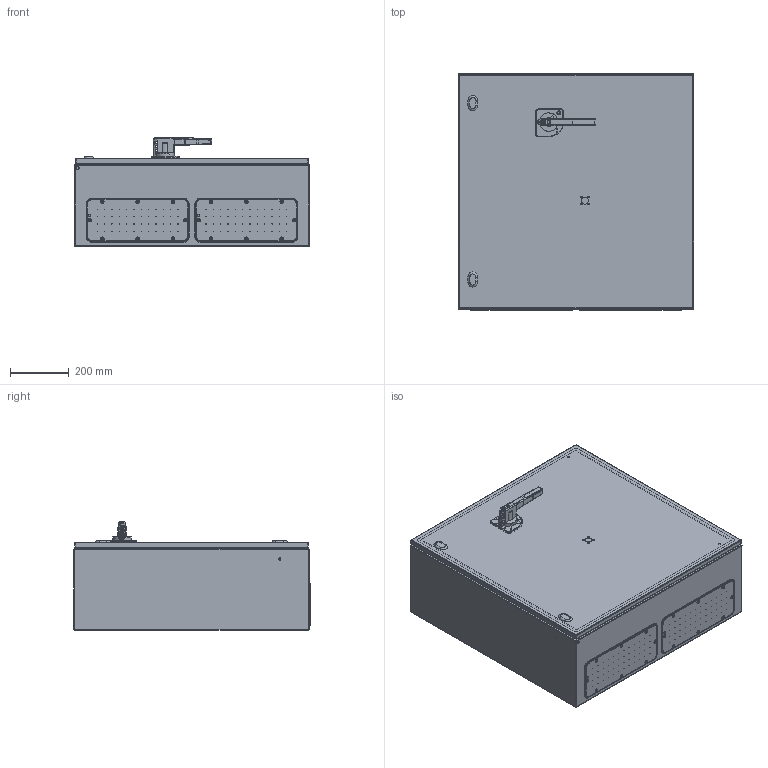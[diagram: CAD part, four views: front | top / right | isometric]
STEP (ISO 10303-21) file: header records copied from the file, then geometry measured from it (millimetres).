
FILE_DESCRIPTION(/* description */ (''),/* implementation_level */ '2;1');
FILE_NAME(/* name */ '4003091.stp',/* time_stamp */ '2020-10-22T08:03:40+02:00',/* author */ (''),/* organization */ (''),/* preprocessor_version */ 'ST-DEVELOPER v16.7',/* originating_system */ 'SIEMENS PLM Software NX 1942',/* authorisation */ '');
FILE_SCHEMA (('AUTOMOTIVE_DESIGN { 1 0 10303 214 3 1 1 1 }'));
Length unit declared in the file: millimetre
Products named in the file (1): BSOM3DCC149Dla7w
Bounding box: 800 x 804 x 368.93 mm (x, y, z)
Volume: 5679710.1 mm3; surface area: 6336374 mm2
Topology: 10 solids, 11 shells, 1592 faces, 4004 edges, 2556 vertices
Faces by surface type: plane 800, cylinder 551, cone 74, torus 69, bspline 50, sphere 48
Full cylindrical faces by diameter (mm): 1 x96, 1.2 x8, 1.7 x2, 2.5 x1, 3 x1, 3.2 x1, 3.45 x1, 4.1 x4, 4.134 x3, 4.4 x1, 4.5 x92, 5.5 x20, 6 x7, 7.3 x1, 8 x13, 8.5 x6, 9 x6, 10 x6, 10.5 x1, 10.8 x1, 13 x1, 14 x4, 14.7 x1, 15.65 x1, 16 x3, 17 x1, 20 x1, 22 x1, 24 x2, 30 x1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
Entity records: 50980 total; most frequent: CARTESIAN_POINT 9658, DIRECTION 7709, ORIENTED_EDGE 6790, EDGE_CURVE 3395, AXIS2_PLACEMENT_3D 2900, EDGE_LOOP 2483, VERTEX_POINT 2393, LINE 1909
